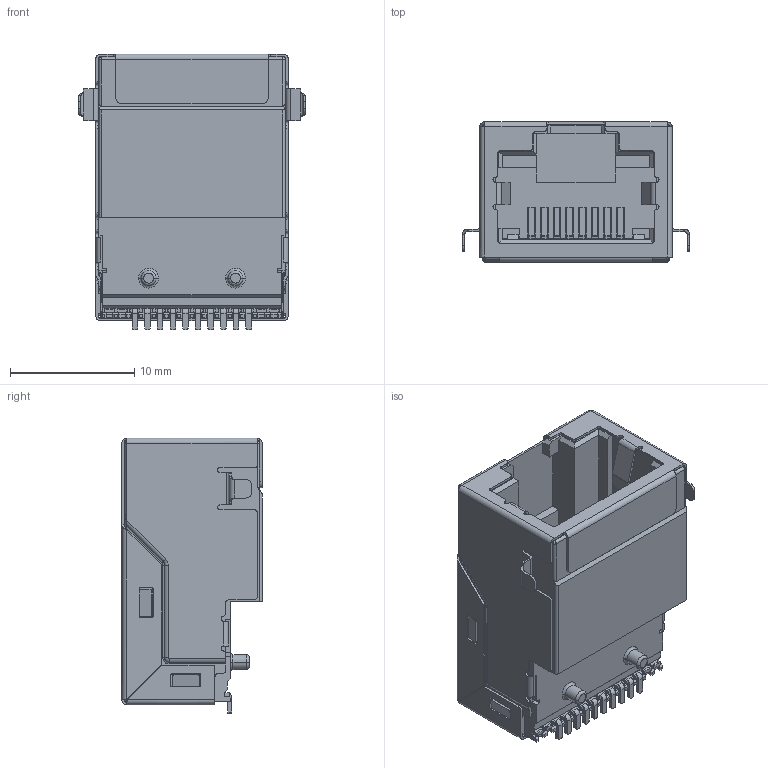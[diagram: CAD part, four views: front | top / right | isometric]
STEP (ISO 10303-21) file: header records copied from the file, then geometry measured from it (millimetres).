
FILE_DESCRIPTION((''),'2;1');
FILE_NAME('DGKYD211B488AB1A7CBST6359','2025-10-11T15:20:56',('DGKYD'),(''),'CREO PARAMETRIC BY PTC INC, 2019010','CREO PARAMETRIC BY PTC INC, 2019010','');
FILE_SCHEMA(('CONFIG_CONTROL_DESIGN'));
Length unit declared in the file: millimetre
Products named in the file (1): DGKYD211B488AB1A7CBST6359
Bounding box: 18.3 x 11.3 x 22.22 mm (x, y, z)
Volume: 1465.5 mm3; surface area: 4954.5 mm2
Topology: 1 solids, 1 shells, 1411 faces, 4174 edges, 2704 vertices
Faces by surface type: plane 1064, cylinder 299, bspline 24, torus 18, sphere 4, extrusion 2
Entity records: 47573 total; most frequent: CARTESIAN_POINT 9624, ORIENTED_EDGE 8340, DIRECTION 7384, EDGE_CURVE 4170, VECTOR 3466, LINE 3464, VERTEX_POINT 2704, AXIS2_PLACEMENT_3D 1959
